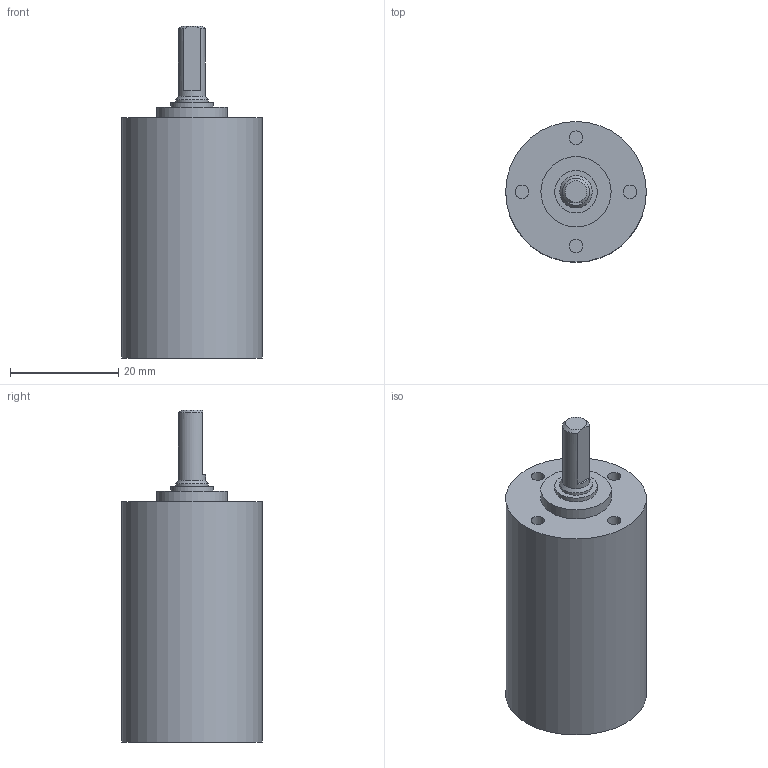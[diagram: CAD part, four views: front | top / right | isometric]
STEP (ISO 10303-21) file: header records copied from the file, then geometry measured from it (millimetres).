
FILE_DESCRIPTION(/* description */ (''),/* implementation_level */ '2;1');
FILE_NAME(/* name */ '26-1_3stage.stp',/* time_stamp */ '2021-02-23T07:21:19+01:00',/* author */ ('DR. FRITZ FAULHABER GmbH & Co. KG'),/* organization */ ('DR. FRITZ FAULHABER GmbH & Co. KG'),/* preprocessor_version */ 'ST-DEVELOPER v16.7',/* originating_system */ 'SIEMENS PLM Software NX 1919',/* authorisation */ '');
FILE_SCHEMA (('AUTOMOTIVE_DESIGN { 1 0 10303 214 3 1 1 1 }'));
Length unit declared in the file: millimetre
Products named in the file (1): 012020_A_2-TP-00214
Bounding box: 26 x 26 x 61.4 mm (x, y, z)
Volume: 19742.9 mm3; surface area: 5962.8 mm2
Topology: 1 solids, 1 shells, 34 faces, 65 edges, 47 vertices
Faces by surface type: plane 17, cylinder 15, cone 2
Full cylindrical faces by diameter (mm): 2.5 x4, 5 x1, 6 x1, 7.85 x1, 11.7 x1, 12.01 x1, 13 x1, 21.5 x1, 22.05 x1, 24 x1, 24.459 x1, 26 x1
Entity records: 824 total; most frequent: DIRECTION 157, CARTESIAN_POINT 123, AXIS2_PLACEMENT_3D 77, ORIENTED_EDGE 74, EDGE_LOOP 63, FACE_BOUND 54, CIRCLE 42, EDGE_CURVE 37
